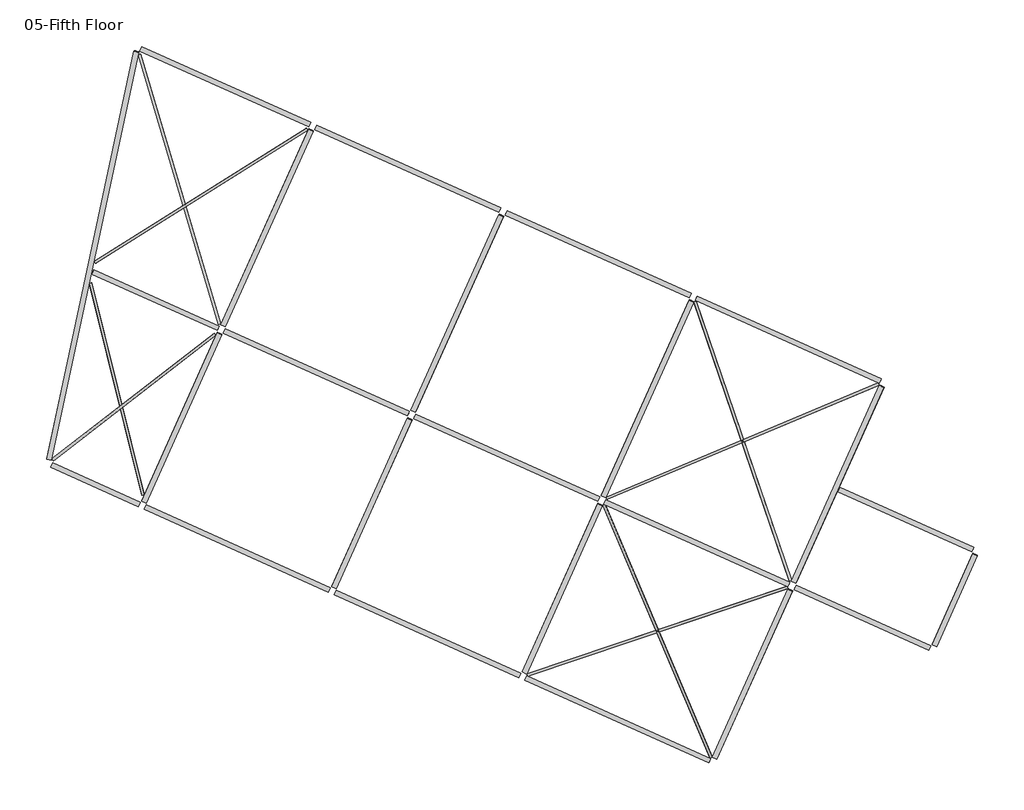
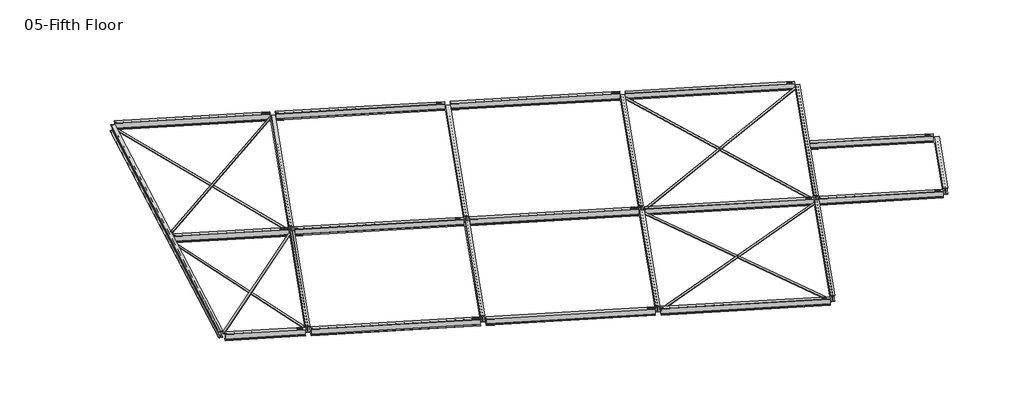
# One storey: 28 beams, 4 members.
"""IFC4 building model written with IfcOpenShell, lengths in millimetres."""

from ifc_helpers import new_model, si_unit, origin, place, context, project, spatial, transform, mapped, element, save
from components import hss_round_structural_tubing_hss3_500x0_203_bc24e7bf, hss_round_structural_tubing_hss3_500x0_203_697ad0ac, hss_round_structural_tubing_hss3_500x0_203_f73b5b16, hss_round_structural_tubing_hss3_500x0_203_38bf33a0, w_shapes_w12x26_8135fd55, w_shapes_w12x26_22116e2b, w_shapes_w12x26_ad648731, w_shapes_w12x26_c2f357ce, w_shapes_w12x26_e6bebfd3, w_shapes_w12x26_969bac88, w_shapes_w12x26_bd244048, w_shapes_w12x26_875e1df2, w_shapes_w12x26_e9ed42f0, w_shapes_w12x26_24b1e7e8, w_shapes_w12x26_b3838ff3, w_shapes_w12x26_b11e058f, hss_round_structural_tubing_hss3_500x0_203_97989235, hss_round_structural_tubing_hss3_500x0_203_666bb957, hss_round_structural_tubing_hss3_500x0_203_1a88a494

model = new_model("IFC4")

# Units and contexts
model_context = context("Model", 3, world=origin())
ifc_project = project(units=[si_unit("LENGTHUNIT", "METRE", prefix="MILLI")], contexts=[model_context])

# Site, building, storey
site = spatial("IfcSite", under=ifc_project)
building = spatial("IfcBuilding", under=site)
storey = spatial("IfcBuildingStorey", under=building, Name="05-Fifth Floor", Elevation=16764.0)

# Beams
placement = place(None, origin())
hss_round_structural_tubing_hss3_500x0_203_shape = hss_round_structural_tubing_hss3_500x0_203_bc24e7bf(model_context)
element("IfcBeam", 1, ObjectType="HSS-Round Structural Tubing : HSS3.500X0.203", at=placement, inside=storey, context=model_context, shape_type="MappedRepresentation", body=[
    mapped(hss_round_structural_tubing_hss3_500x0_203_shape, transform((33164.6659576, -4982.5853928, 16454.6553402), x_axis=(0.8465666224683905, 0.5304901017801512, 0.043648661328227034), y_axis=(-0.5309961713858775, 0.84737421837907, 0.0), z_axis=(-0.036986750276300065, -0.02317727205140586, 0.9990469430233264))),
])
hss_round_structural_tubing_hss3_500x0_203_2_shape = hss_round_structural_tubing_hss3_500x0_203_697ad0ac(model_context)
element("IfcBeam", 2, ObjectType="HSS-Round Structural Tubing : HSS3.500X0.203", at=placement, inside=storey, context=model_context, shape_type="MappedRepresentation", body=[
    mapped(hss_round_structural_tubing_hss3_500x0_203_2_shape, transform((32413.3563783, -4738.4631871, 16361.2147314), x_axis=(0.2847266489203, -0.9577913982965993, -0.039577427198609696), y_axis=(0.9585424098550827, 0.28494990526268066, 0.0), z_axis=(0.011277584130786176, -0.03793664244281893, 0.9992165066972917))),
])
hss_round_structural_tubing_hss3_500x0_203_3_shape = hss_round_structural_tubing_hss3_500x0_203_f73b5b16(model_context)
element("IfcBeam", 3, ObjectType="HSS-Round Structural Tubing : HSS3.500X0.203", at=placement, inside=storey, context=model_context, shape_type="MappedRepresentation", body=[
    mapped(hss_round_structural_tubing_hss3_500x0_203_3_shape, transform((30299.6088991, -11446.5499138, 15995.132863), x_axis=(0.23971755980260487, -0.9699722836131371, -0.041100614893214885), y_axis=(0.9707925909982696, 0.23992028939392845, 0.0), z_axis=(0.009860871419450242, -0.039900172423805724, 0.9991550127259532))),
])
hss_round_structural_tubing_hss3_500x0_203_4_shape = hss_round_structural_tubing_hss3_500x0_203_38bf33a0(model_context)
element("IfcBeam", 4, ObjectType="HSS-Round Structural Tubing : HSS3.500X0.203", at=placement, inside=storey, context=model_context, shape_type="MappedRepresentation", body=[
    mapped(hss_round_structural_tubing_hss3_500x0_203_4_shape, transform((30912.7219403, -11739.1081667, 16083.2983067), x_axis=(0.7903787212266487, 0.6108659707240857, 0.046305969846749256), y_axis=(-0.6115219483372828, 0.791227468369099, 0.0), z_axis=(-0.036638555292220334, -0.028317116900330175, 0.9989273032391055))),
])
w_shapes_w12x26_shape = w_shapes_w12x26_8135fd55(model_context)
element("IfcBeam", 5, ObjectType="W Shapes : W12X26", at=placement, inside=storey, context=model_context, shape_type="MappedRepresentation", body=[
    mapped(w_shapes_w12x26_shape, transform((40094.896579, -4085.0634146, 16602.5839183), x_axis=(0.9121951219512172, -0.4097560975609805, 0.0), y_axis=(0.4097560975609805, 0.9121951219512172, 0.0), z_axis=(0.0, 0.0, 1.0))),
])
element("IfcBeam", 6, ObjectType="W Shapes : W12X26", at=placement, inside=storey, context=model_context, shape_type="MappedRepresentation", body=[
    mapped(w_shapes_w12x26_shape, transform((46489.749262, -6957.617561, 16602.5839183), x_axis=(0.912195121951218, -0.40975609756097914, 0.0), y_axis=(0.40975609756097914, 0.912195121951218, 0.0), z_axis=(0.0, 0.0, 1.0))),
])
element("IfcBeam", 7, ObjectType="W Shapes : W12X26", at=placement, inside=storey, context=model_context, shape_type="MappedRepresentation", body=[
    mapped(w_shapes_w12x26_shape, transform((52884.6019449, -9830.1717073, 16602.5839183), x_axis=(0.9121951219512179, -0.40975609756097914, 0.0), y_axis=(0.40975609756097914, 0.9121951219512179, 0.0), z_axis=(0.0, 0.0, 1.0))),
])
element("IfcBeam", 8, ObjectType="W Shapes : W12X26", at=placement, inside=storey, context=model_context, shape_type="MappedRepresentation", body=[
    mapped(w_shapes_w12x26_shape, transform((34360.1960912, -16851.5990244, 15869.1160841), x_axis=(0.9121951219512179, -0.4097560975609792, 0.0), y_axis=(0.4097560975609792, 0.9121951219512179, 0.0), z_axis=(0.0, 0.0, 1.0))),
])
element("IfcBeam", 9, ObjectType="W Shapes : W12X26", at=placement, inside=storey, context=model_context, shape_type="MappedRepresentation", body=[
    mapped(w_shapes_w12x26_shape, transform((40755.0487742, -19724.1531707, 15869.1160841), x_axis=(0.9121951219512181, -0.40975609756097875, 0.0), y_axis=(0.40975609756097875, 0.9121951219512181, 0.0), z_axis=(0.0, 0.0, 1.0))),
])
element("IfcBeam", 10, ObjectType="W Shapes : W12X26", at=placement, inside=storey, context=model_context, shape_type="MappedRepresentation", body=[
    mapped(w_shapes_w12x26_shape, transform((47149.9014571, -22596.7073171, 15869.1160841), x_axis=(0.9121951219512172, -0.40975609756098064, 0.0), y_axis=(0.40975609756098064, 0.9121951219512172, 0.0), z_axis=(0.0, 0.0, 1.0))),
])
element("IfcBeam", 11, ObjectType="W Shapes : W12X26", at=placement, inside=storey, context=model_context, shape_type="MappedRepresentation", body=[
    mapped(w_shapes_w12x26_shape, transform((37019.3902376, -10931.7263415, 16209.2268493), x_axis=(0.9121951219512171, -0.4097560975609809, 0.0), y_axis=(0.4097560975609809, 0.9121951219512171, 0.0), z_axis=(0.0, 0.0, 1.0))),
])
element("IfcBeam", 12, ObjectType="W Shapes : W12X26", at=placement, inside=storey, context=model_context, shape_type="MappedRepresentation", body=[
    mapped(w_shapes_w12x26_shape, transform((43414.2429205, -13804.2804878, 16209.2268493), x_axis=(0.9121951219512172, -0.4097560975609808, 0.0), y_axis=(0.4097560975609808, 0.9121951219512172, 0.0), z_axis=(0.0, 0.0, 1.0))),
])
element("IfcBeam", 13, ObjectType="W Shapes : W12X26", at=placement, inside=storey, context=model_context, shape_type="MappedRepresentation", body=[
    mapped(w_shapes_w12x26_shape, transform((49809.0956034, -16676.8346341, 16209.2268493), x_axis=(0.9121951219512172, -0.40975609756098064, 0.0), y_axis=(0.40975609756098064, 0.9121951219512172, 0.0), z_axis=(0.0, 0.0, 1.0))),
])
w_shapes_w12x26_2_shape = w_shapes_w12x26_22116e2b(model_context)
element("IfcBeam", 14, ObjectType="W Shapes : W12X26", at=placement, inside=storey, context=model_context, shape_type="MappedRepresentation", body=[
    mapped(w_shapes_w12x26_2_shape, transform((29502.9216102, -6989.9466027, 16235.0867039), x_axis=(-0.20925451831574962, -0.976521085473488, -0.051177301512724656), y_axis=(0.9778024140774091, -0.20952908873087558, 0.0), z_axis=(-0.010723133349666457, -0.0500412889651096, 0.9986895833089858))),
])
w_shapes_w12x26_3_shape = w_shapes_w12x26_ad648731(model_context)
element("IfcBeam", 15, ObjectType="W Shapes : W12X26", at=placement, inside=storey, context=model_context, shape_type="MappedRepresentation", body=[
    mapped(w_shapes_w12x26_3_shape, transform((41757.8924345, -8937.275022, 16406.1177237), x_axis=(-0.40919454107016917, -0.9109449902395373, -0.05233595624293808), y_axis=(0.9121951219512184, -0.4097560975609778, 0.0), z_axis=(-0.02144497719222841, -0.04774060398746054, 0.9986295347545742))),
])
element("IfcBeam", 16, ObjectType="W Shapes : W12X26", at=placement, inside=storey, context=model_context, shape_type="MappedRepresentation", body=[
    mapped(w_shapes_w12x26_3_shape, transform((54547.5978004, -14682.3833147, 16406.1177237), x_axis=(-0.4091945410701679, -0.9109449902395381, -0.052335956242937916), y_axis=(0.9121951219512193, -0.40975609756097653, 0.0), z_axis=(-0.021444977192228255, -0.047740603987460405, 0.9986295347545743))),
])
element("IfcBeam", 17, ObjectType="W Shapes : W12X26", at=placement, inside=storey, context=model_context, shape_type="MappedRepresentation", body=[
    mapped(w_shapes_w12x26_3_shape, transform((48152.7451175, -11809.8291684, 16406.1177237), x_axis=(-0.4091945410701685, -0.9109449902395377, -0.05233595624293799), y_axis=(0.9121951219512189, -0.40975609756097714, 0.0), z_axis=(-0.021444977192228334, -0.04774060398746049, 0.9986295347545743))),
])
w_shapes_w12x26_4_shape = w_shapes_w12x26_c2f357ce(model_context)
element("IfcBeam", 18, ObjectType="W Shapes : W12X26", at=placement, inside=storey, context=model_context, shape_type="MappedRepresentation", body=[
    mapped(w_shapes_w12x26_4_shape, transform((38890.5421906, -15320.5428269, 16039.3838066), x_axis=(-0.4091945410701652, -0.9109449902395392, -0.052335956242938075), y_axis=(0.9121951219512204, -0.4097560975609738, 0.0), z_axis=(-0.021444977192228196, -0.047740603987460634, 0.9986295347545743))),
])
element("IfcBeam", 19, ObjectType="W Shapes : W12X26", at=placement, inside=storey, context=model_context, shape_type="MappedRepresentation", body=[
    mapped(w_shapes_w12x26_4_shape, transform((45285.3948736, -18193.0969733, 16039.3838066), x_axis=(-0.4091945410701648, -0.9109449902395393, -0.05233595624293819), y_axis=(0.9121951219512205, -0.4097560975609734, 0.0), z_axis=(-0.02144497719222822, -0.04774060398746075, 0.9986295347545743))),
])
w_shapes_w12x26_5_shape = w_shapes_w12x26_e6bebfd3(model_context)
element("IfcBeam", 20, ObjectType="W Shapes : W12X26", at=placement, inside=storey, context=model_context, shape_type="MappedRepresentation", body=[
    mapped(w_shapes_w12x26_5_shape, transform((33949.1399021, -1324.4026613, 16602.1007534), x_axis=(0.9121951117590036, -0.40975609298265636, 0.0001494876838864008), y_axis=(0.4097560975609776, 0.9121951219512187, 0.0), z_axis=(-0.0001363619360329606, 6.125348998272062e-05, 0.9999999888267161))),
])
w_shapes_w12x26_6_shape = w_shapes_w12x26_969bac88(model_context)
element("IfcBeam", 21, ObjectType="W Shapes : W12X26", at=placement, inside=storey, context=model_context, shape_type="MappedRepresentation", body=[
    mapped(w_shapes_w12x26_6_shape, transform((55369.8370668, -19174.7078049, 16209.2268493), x_axis=(0.9121951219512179, -0.40975609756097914, 0.0), y_axis=(0.40975609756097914, 0.9121951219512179, 0.0), z_axis=(0.0, 0.0, 1.0))),
])
w_shapes_w12x26_7_shape = w_shapes_w12x26_bd244048(model_context)
element("IfcBeam", 22, ObjectType="W Shapes : W12X26", at=placement, inside=storey, context=model_context, shape_type="MappedRepresentation", body=[
    mapped(w_shapes_w12x26_7_shape, transform((58475.7335254, -18583.1764031, 16304.5793701), x_axis=(0.4091875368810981, 0.910929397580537, 0.05266110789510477), y_axis=(-0.9121951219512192, 0.40975609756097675, 0.0), z_axis=(-0.021578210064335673, -0.0480372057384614, 0.9986124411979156))),
])
w_shapes_w12x26_8_shape = w_shapes_w12x26_875e1df2(model_context)
element("IfcBeam", 23, ObjectType="W Shapes : W12X26", at=placement, inside=storey, context=model_context, shape_type="MappedRepresentation", body=[
    mapped(w_shapes_w12x26_8_shape, transform((56847.2176086, -15882.8464901, 16402.7037672), x_axis=(-0.9121944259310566, 0.40975578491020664, 0.0012353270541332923), y_axis=(-0.40975609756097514, -0.9121951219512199, 0.0), z_axis=(0.0011268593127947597, -0.0005061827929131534, 0.9999992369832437))),
])
w_shapes_w12x26_9_shape = w_shapes_w12x26_e9ed42f0(model_context)
element("IfcBeam", 24, ObjectType="W Shapes : W12X26", at=placement, inside=storey, context=model_context, shape_type="MappedRepresentation", body=[
    mapped(w_shapes_w12x26_9_shape, transform((29582.3008004, -14705.3786798, 15868.6329235), x_axis=(0.9121950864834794, -0.40975608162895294, 0.00027886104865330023), y_axis=(0.40975609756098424, 0.9121951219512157, 0.0), z_axis=(-0.00025437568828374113, 0.00011426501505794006, 0.9999999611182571))),
])
w_shapes_w12x26_10_shape = w_shapes_w12x26_24b1e7e8(model_context)
element("IfcBeam", 25, ObjectType="W Shapes : W12X26", at=placement, inside=storey, context=model_context, shape_type="MappedRepresentation", body=[
    mapped(w_shapes_w12x26_10_shape, transform((51680.2475565, -21065.6511196, 16039.3838066), x_axis=(0.4091945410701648, 0.9109449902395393, 0.05233595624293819), y_axis=(-0.9121951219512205, 0.4097560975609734, 0.0), z_axis=(-0.021444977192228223, -0.047740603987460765, 0.9986295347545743))),
])
element("IfcBeam", 26, ObjectType="W Shapes : W12X26", at=placement, inside=storey, context=model_context, shape_type="MappedRepresentation", body=[
    mapped(w_shapes_w12x26_10_shape, transform((32495.6895077, -12447.9886806, 16039.3838066), x_axis=(0.4091945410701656, 0.9109449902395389, 0.052335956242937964), y_axis=(-0.9121951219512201, 0.40975609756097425, 0.0), z_axis=(-0.021444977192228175, -0.04774060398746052, 0.9986295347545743))),
])
w_shapes_w12x26_11_shape = w_shapes_w12x26_b3838ff3(model_context)
element("IfcBeam", 27, ObjectType="W Shapes : W12X26", at=placement, inside=storey, context=model_context, shape_type="MappedRepresentation", body=[
    mapped(w_shapes_w12x26_11_shape, transform((31589.5574958, -8492.6570885, 16213.0695465), x_axis=(-0.9121939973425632, 0.4097555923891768, 0.0015702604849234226), y_axis=(-0.40975609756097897, -0.9121951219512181, 0.0), z_axis=(0.0014323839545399, -0.000643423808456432, 0.9999987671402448))),
])
w_shapes_w12x26_12_shape = w_shapes_w12x26_b11e058f(model_context)
element("IfcBeam", 28, ObjectType="W Shapes : W12X26", at=placement, inside=storey, context=model_context, shape_type="MappedRepresentation", body=[
    mapped(w_shapes_w12x26_12_shape, transform((35363.0397516, -6064.7208757, 16406.1177237), x_axis=(0.4091945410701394, 0.9109449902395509, 0.0523359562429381), y_axis=(-0.9121951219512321, 0.40975609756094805, 0.0), z_axis=(-0.021444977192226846, -0.04774060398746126, 0.9986295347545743))),
])

# Members
hss_round_structural_tubing_hss3_500x0_203_5_shape = hss_round_structural_tubing_hss3_500x0_203_97989235(model_context)
element("IfcMember", 29, ObjectType="HSS-Round Structural Tubing : HSS3.500X0.203", at=placement, inside=storey, context=model_context, shape_type="MappedRepresentation", body=[
    mapped(hss_round_structural_tubing_hss3_500x0_203_5_shape, transform((51351.7401291, -13245.4479702, 16361.7002896), x_axis=(0.9214261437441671, 0.38666408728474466, 0.03827199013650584), y_axis=(-0.38694758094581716, 0.9221017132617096, 0.0), z_axis=(-0.03529066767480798, -0.014809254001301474, 0.999267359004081))),
])
hss_round_structural_tubing_hss3_500x0_203_6_shape = hss_round_structural_tubing_hss3_500x0_203_666bb957(model_context)
element("IfcMember", 30, ObjectType="HSS-Round Structural Tubing : HSS3.500X0.203", at=placement, inside=storey, context=model_context, shape_type="MappedRepresentation", body=[
    mapped(hss_round_structural_tubing_hss3_500x0_203_6_shape, transform((51349.6216424, -13244.4963505, 16361.7002896), x_axis=(0.32295845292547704, -0.9456389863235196, -0.0382719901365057), y_axis=(0.9463323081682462, 0.32319523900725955, 0.0), z_axis=(0.012369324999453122, -0.03621802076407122, 0.9992673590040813))),
])
hss_round_structural_tubing_hss3_500x0_203_7_shape = hss_round_structural_tubing_hss3_500x0_203_1a88a494(model_context)
element("IfcMember", 31, ObjectType="HSS-Round Structural Tubing : HSS3.500X0.203", at=placement, inside=storey, context=model_context, shape_type="MappedRepresentation", body=[
    mapped(hss_round_structural_tubing_hss3_500x0_203_7_shape, transform((48484.3201067, -19628.8695648, 15994.9619503), x_axis=(0.9471589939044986, 0.31878509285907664, 0.035579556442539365), y_axis=(-0.31898706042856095, 0.9477590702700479, 0.0), z_axis=(-0.03372084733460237, -0.011349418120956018, 0.9993668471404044))),
])
element("IfcMember", 32, ObjectType="HSS-Round Structural Tubing : HSS3.500X0.203", at=placement, inside=storey, context=model_context, shape_type="MappedRepresentation", body=[
    mapped(hss_round_structural_tubing_hss3_500x0_203_7_shape, transform((48482.2027791, -19627.9184658, 15994.9619503), x_axis=(-0.3907934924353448, 0.9197904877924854, 0.03557955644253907), y_axis=(-0.9203732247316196, -0.3910410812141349, 0.0), z_axis=(0.013913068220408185, -0.03274647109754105, 0.9993668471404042))),
])

save(model, "model.ifc")
